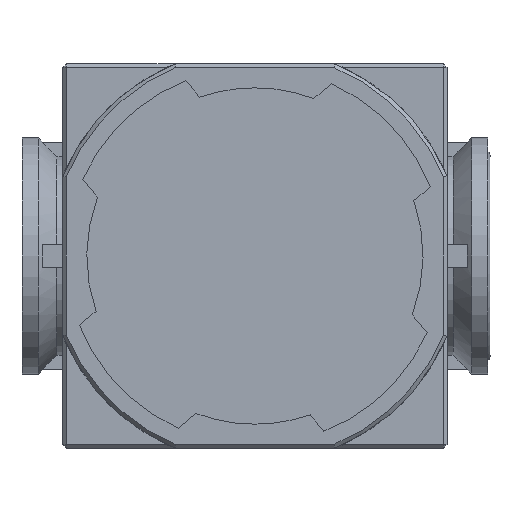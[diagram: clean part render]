
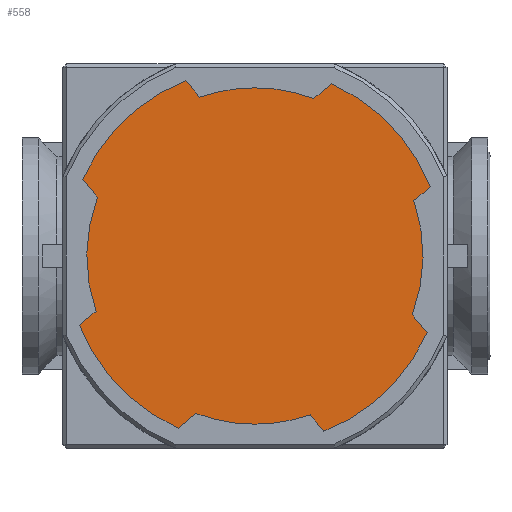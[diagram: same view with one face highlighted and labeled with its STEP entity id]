
A CAD part, front view. The second image highlights one B-rep face of the part: STEP entity #558.
In plain terms, the highlighted planar face has unit normal (0, -1, 0).
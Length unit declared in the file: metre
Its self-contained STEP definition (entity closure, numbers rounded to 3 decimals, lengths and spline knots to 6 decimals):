
#558=ADVANCED_FACE('30:13509',(#1632),#1633,.T.);
#1632=FACE_OUTER_BOUND('',#3456,.T.);
#1633=PLANE('',#3457);
#3456=EDGE_LOOP('',(#7366,#7367,#7368,#7369,#7370,#7371,#7372,#7373,#7374,#7375,#7376,#7377,#7378,#7379,#7380,#7381,#7382,#7383));
#3457=AXIS2_PLACEMENT_3D('',#7384,#7385,#7386);
#7366=ORIENTED_EDGE('',*,*,#8420,.T.);
#7367=ORIENTED_EDGE('',*,*,#8423,.T.);
#7368=ORIENTED_EDGE('',*,*,#8426,.T.);
#7369=ORIENTED_EDGE('',*,*,#8429,.T.);
#7370=ORIENTED_EDGE('',*,*,#8432,.T.);
#7371=ORIENTED_EDGE('',*,*,#8435,.T.);
#7372=ORIENTED_EDGE('',*,*,#8438,.T.);
#7373=ORIENTED_EDGE('',*,*,#7820,.T.);
#7374=ORIENTED_EDGE('',*,*,#8442,.T.);
#7375=ORIENTED_EDGE('',*,*,#8443,.T.);
#7376=ORIENTED_EDGE('',*,*,#8446,.T.);
#7377=ORIENTED_EDGE('',*,*,#8449,.T.);
#7378=ORIENTED_EDGE('',*,*,#8452,.T.);
#7379=ORIENTED_EDGE('',*,*,#8455,.T.);
#7380=ORIENTED_EDGE('',*,*,#8458,.T.);
#7381=ORIENTED_EDGE('',*,*,#8461,.T.);
#7382=ORIENTED_EDGE('',*,*,#8464,.T.);
#7383=ORIENTED_EDGE('',*,*,#7818,.T.);
#7384=CARTESIAN_POINT('',(-0.026,-0.0365,0.026));
#7385=DIRECTION('',(0.0,-1.0,0.0));
#7386=DIRECTION('',(0.0,0.0,-1.0));
#7818=EDGE_CURVE('30:15228',#9439,#9443,#9445,.T.);
#7820=EDGE_CURVE('30:15156',#9449,#9446,#9450,.T.);
#8420=EDGE_CURVE('30:15090',#9443,#10384,#10385,.T.);
#8423=EDGE_CURVE('30:15102',#10384,#10389,#10390,.T.);
#8426=EDGE_CURVE('30:15111',#10389,#10394,#10395,.T.);
#8429=EDGE_CURVE('30:15120',#10394,#10399,#10400,.T.);
#8432=EDGE_CURVE('30:15129',#10399,#10404,#10405,.T.);
#8435=EDGE_CURVE('30:15138',#10404,#10409,#10410,.T.);
#8438=EDGE_CURVE('30:15147',#10409,#9449,#10414,.T.);
#8442=EDGE_CURVE('30:15156',#9446,#10418,#10420,.T.);
#8443=EDGE_CURVE('30:15165',#10418,#10421,#10422,.T.);
#8446=EDGE_CURVE('30:15174',#10421,#10426,#10427,.T.);
#8449=EDGE_CURVE('30:15183',#10426,#10431,#10432,.T.);
#8452=EDGE_CURVE('30:15192',#10431,#10436,#10437,.T.);
#8455=EDGE_CURVE('30:15201',#10436,#10441,#10442,.T.);
#8458=EDGE_CURVE('30:15210',#10441,#10446,#10447,.T.);
#8461=EDGE_CURVE('30:15219',#10446,#10451,#10452,.T.);
#8464=EDGE_CURVE('30:15228',#10451,#9439,#10456,.T.);
#9439=VERTEX_POINT('',#11536);
#9443=VERTEX_POINT('',#11541);
#9445=CIRCLE('',#11544,0.022741);
#9446=VERTEX_POINT('',#11545);
#9449=VERTEX_POINT('',#11549);
#9450=CIRCLE('',#11550,0.022741);
#10384=VERTEX_POINT('',#12983);
#10385=LINE('',#12984,#12985);
#10389=VERTEX_POINT('',#12991);
#10390=CIRCLE('',#12992,0.025491);
#10394=VERTEX_POINT('',#12997);
#10395=LINE('',#12998,#12999);
#10399=VERTEX_POINT('',#13005);
#10400=CIRCLE('',#13006,0.022741);
#10404=VERTEX_POINT('',#13011);
#10405=LINE('',#13012,#13013);
#10409=VERTEX_POINT('',#13019);
#10410=CIRCLE('',#13020,0.025491);
#10414=LINE('',#13025,#13026);
#10418=VERTEX_POINT('',#13031);
#10420=CIRCLE('',#13034,0.022741);
#10421=VERTEX_POINT('',#13035);
#10422=LINE('',#13036,#13037);
#10426=VERTEX_POINT('',#13043);
#10427=CIRCLE('',#13044,0.025491);
#10431=VERTEX_POINT('',#13049);
#10432=LINE('',#13050,#13051);
#10436=VERTEX_POINT('',#13057);
#10437=CIRCLE('',#13058,0.022741);
#10441=VERTEX_POINT('',#13063);
#10442=LINE('',#13064,#13065);
#10446=VERTEX_POINT('',#13071);
#10447=CIRCLE('',#13072,0.025491);
#10451=VERTEX_POINT('',#13077);
#10452=LINE('',#13078,#13079);
#10456=CIRCLE('',#13085,0.022741);
#11536=CARTESIAN_POINT('',(0.,-0.0365,0.022741));
#11541=CARTESIAN_POINT('',(-0.007463,-0.0365,0.021482));
#11544=AXIS2_PLACEMENT_3D('',#14657,#14658,#14659);
#11545=CARTESIAN_POINT('',(0.,-0.0365,-0.022741));
#11549=CARTESIAN_POINT('',(-0.007972,-0.0365,-0.021298));
#11550=AXIS2_PLACEMENT_3D('',#14661,#14662,#14663);
#12983=CARTESIAN_POINT('',(-0.00934,-0.0365,0.023719));
#12984=CARTESIAN_POINT('',(-0.00934,-0.0365,0.023719));
#12985=VECTOR('',#15852,1.0);
#12991=CARTESIAN_POINT('',(-0.023295,-0.0365,0.010351));
#12992=AXIS2_PLACEMENT_3D('',#15855,#15856,#15857);
#12997=CARTESIAN_POINT('',(-0.021298,-0.0365,0.007972));
#12998=CARTESIAN_POINT('',(-0.021298,-0.0365,0.007972));
#12999=VECTOR('',#15862,1.0);
#13005=CARTESIAN_POINT('',(-0.021482,-0.0365,-0.007463));
#13006=AXIS2_PLACEMENT_3D('',#15865,#15866,#15867);
#13011=CARTESIAN_POINT('',(-0.023719,-0.0365,-0.00934));
#13012=CARTESIAN_POINT('',(-0.023719,-0.0365,-0.00934));
#13013=VECTOR('',#15872,1.0);
#13019=CARTESIAN_POINT('',(-0.010351,-0.0365,-0.023295));
#13020=AXIS2_PLACEMENT_3D('',#15875,#15876,#15877);
#13025=CARTESIAN_POINT('',(-0.007972,-0.0365,-0.021298));
#13026=VECTOR('',#15882,1.0);
#13031=CARTESIAN_POINT('',(0.007463,-0.0365,-0.021482));
#13034=AXIS2_PLACEMENT_3D('',#15888,#15889,#15890);
#13035=CARTESIAN_POINT('',(0.00934,-0.0365,-0.023719));
#13036=CARTESIAN_POINT('',(0.00934,-0.0365,-0.023719));
#13037=VECTOR('',#15891,1.0);
#13043=CARTESIAN_POINT('',(0.023295,-0.0365,-0.010351));
#13044=AXIS2_PLACEMENT_3D('',#15894,#15895,#15896);
#13049=CARTESIAN_POINT('',(0.021298,-0.0365,-0.007972));
#13050=CARTESIAN_POINT('',(0.021298,-0.0365,-0.007972));
#13051=VECTOR('',#15901,1.);
#13057=CARTESIAN_POINT('',(0.021482,-0.0365,0.007463));
#13058=AXIS2_PLACEMENT_3D('',#15904,#15905,#15906);
#13063=CARTESIAN_POINT('',(0.023719,-0.0365,0.00934));
#13064=CARTESIAN_POINT('',(0.023719,-0.0365,0.00934));
#13065=VECTOR('',#15911,1.0);
#13071=CARTESIAN_POINT('',(0.010351,-0.0365,0.023295));
#13072=AXIS2_PLACEMENT_3D('',#15914,#15915,#15916);
#13077=CARTESIAN_POINT('',(0.007972,-0.0365,0.021298));
#13078=CARTESIAN_POINT('',(0.007972,-0.0365,0.021298));
#13079=VECTOR('',#15921,1.0);
#13085=AXIS2_PLACEMENT_3D('',#15924,#15925,#15926);
#14657=CARTESIAN_POINT('',(0.0,-0.0365,0.0));
#14658=DIRECTION('',(0.0,-1.0,0.0));
#14659=DIRECTION('',(0.0,0.0,-1.0));
#14661=CARTESIAN_POINT('',(0.0,-0.0365,0.0));
#14662=DIRECTION('',(0.0,-1.0,0.0));
#14663=DIRECTION('',(0.0,0.0,-1.0));
#15852=DIRECTION('',(-0.643,0.0,0.766));
#15855=CARTESIAN_POINT('',(0.0,-0.0365,0.0));
#15856=DIRECTION('',(0.0,-1.0,0.0));
#15857=DIRECTION('',(0.0,0.0,-1.0));
#15862=DIRECTION('',(0.643,0.0,-0.766));
#15865=CARTESIAN_POINT('',(0.0,-0.0365,0.0));
#15866=DIRECTION('',(0.0,-1.0,0.0));
#15867=DIRECTION('',(0.0,0.0,-1.0));
#15872=DIRECTION('',(-0.766,-0.0,-0.643));
#15875=CARTESIAN_POINT('',(0.0,-0.0365,0.0));
#15876=DIRECTION('',(0.0,-1.0,0.0));
#15877=DIRECTION('',(0.0,0.0,-1.0));
#15882=DIRECTION('',(0.766,0.0,0.643));
#15888=CARTESIAN_POINT('',(0.0,-0.0365,0.0));
#15889=DIRECTION('',(0.0,-1.0,0.0));
#15890=DIRECTION('',(0.0,0.0,-1.0));
#15891=DIRECTION('',(0.643,0.0,-0.766));
#15894=CARTESIAN_POINT('',(0.0,-0.0365,0.0));
#15895=DIRECTION('',(0.0,-1.0,0.0));
#15896=DIRECTION('',(0.0,0.0,-1.0));
#15901=DIRECTION('',(-0.643,0.0,0.766));
#15904=CARTESIAN_POINT('',(0.0,-0.0365,0.0));
#15905=DIRECTION('',(0.0,-1.0,0.0));
#15906=DIRECTION('',(0.0,0.0,-1.0));
#15911=DIRECTION('',(0.766,0.0,0.643));
#15914=CARTESIAN_POINT('',(0.0,-0.0365,0.0));
#15915=DIRECTION('',(0.0,-1.0,0.0));
#15916=DIRECTION('',(0.0,0.0,-1.0));
#15921=DIRECTION('',(-0.766,-0.0,-0.643));
#15924=CARTESIAN_POINT('',(0.0,-0.0365,0.0));
#15925=DIRECTION('',(0.0,-1.0,0.0));
#15926=DIRECTION('',(0.0,0.0,-1.0));
